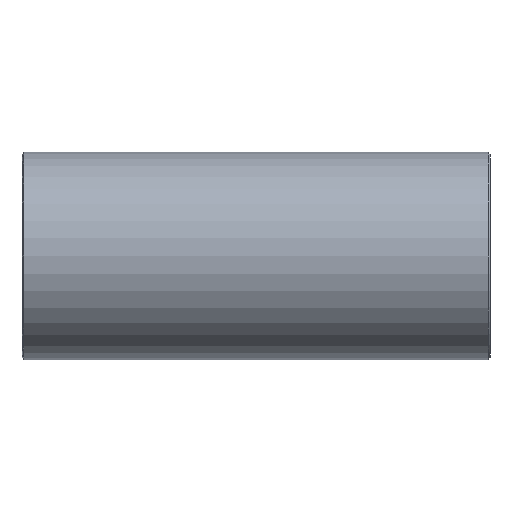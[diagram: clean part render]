
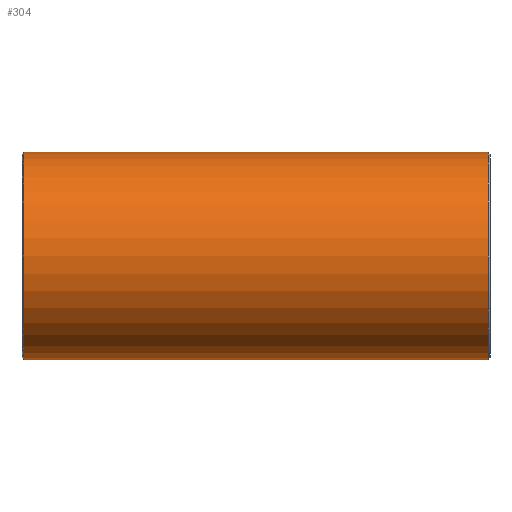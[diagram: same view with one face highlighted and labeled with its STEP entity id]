
A CAD part, front view. The second image highlights one B-rep face of the part: STEP entity #304.
In plain terms, the highlighted cylindrical face has radius 10.9 mm (diameter 21.8 mm), a full revolution.
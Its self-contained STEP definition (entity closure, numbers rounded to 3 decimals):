
#121=CARTESIAN_POINT('',(0.0,0.0,10.9));
#122=VERTEX_POINT('',#121);
#123=CARTESIAN_POINT('',(0.0,0.0,-10.9));
#124=VERTEX_POINT('',#123);
#221=CARTESIAN_POINT('',(-24.4,10.9,0.));
#222=VERTEX_POINT('',#221);
#223=CARTESIAN_POINT('',(-24.4,0.0,0.0));
#224=DIRECTION('',(-1.0,0.0,0.0));
#225=DIRECTION('',(0.0,-1.0,0.0));
#226=AXIS2_PLACEMENT_3D('',#223,#224,#225);
#227=CIRCLE('',#226,10.9);
#228=EDGE_CURVE('',#222,#222,#227,.T.);
#233=CARTESIAN_POINT('',(0.0,0.0,0.0));
#234=DIRECTION('',(1.0,0.0,0.0));
#235=DIRECTION('',(0.0,1.0,0.0));
#236=AXIS2_PLACEMENT_3D('',#233,#234,#235);
#237=CYLINDRICAL_SURFACE('',#236,10.9);
#238=CARTESIAN_POINT('',(24.4,10.9,0.));
#239=VERTEX_POINT('',#238);
#240=CARTESIAN_POINT('',(24.4,0.0,0.0));
#241=DIRECTION('',(1.0,0.0,0.0));
#242=DIRECTION('',(0.0,-1.0,0.0));
#243=AXIS2_PLACEMENT_3D('',#240,#241,#242);
#244=CIRCLE('',#243,10.9);
#245=EDGE_CURVE('',#239,#239,#244,.T.);
#246=ORIENTED_EDGE('',*,*,#245,.F.);
#247=EDGE_LOOP('',(#246));
#248=FACE_OUTER_BOUND('',#247,.T.);
#249=CARTESIAN_POINT('',(11.478,9.,6.148));
#250=VERTEX_POINT('',#249);
#251=CARTESIAN_POINT('',(0.0,0.0,0.0));
#252=DIRECTION('',(-0.617,0.787,0.0));
#253=DIRECTION('',(0.787,0.617,0.0));
#254=AXIS2_PLACEMENT_3D('',#251,#252,#253);
#255=ELLIPSE('',#254,17.664,10.9);
#256=EDGE_CURVE('',#122,#250,#255,.T.);
#257=ORIENTED_EDGE('',*,*,#256,.F.);
#258=CARTESIAN_POINT('',(-11.478,9.,6.148));
#259=VERTEX_POINT('',#258);
#260=CARTESIAN_POINT('',(0.0,0.0,0.0));
#261=DIRECTION('',(0.617,0.787,0.0));
#262=DIRECTION('',(-0.787,0.617,0.0));
#263=AXIS2_PLACEMENT_3D('',#260,#261,#262);
#264=ELLIPSE('',#263,17.664,10.9);
#265=EDGE_CURVE('',#259,#122,#264,.T.);
#266=ORIENTED_EDGE('',*,*,#265,.F.);
#267=CARTESIAN_POINT('',(-11.478,9.,-6.148));
#268=VERTEX_POINT('',#267);
#269=CARTESIAN_POINT('',(0.0,0.0,0.0));
#270=DIRECTION('',(0.617,0.787,0.0));
#271=DIRECTION('',(-0.787,0.617,0.0));
#272=AXIS2_PLACEMENT_3D('',#269,#270,#271);
#273=ELLIPSE('',#272,17.664,10.9);
#274=EDGE_CURVE('',#268,#259,#273,.T.);
#275=ORIENTED_EDGE('',*,*,#274,.F.);
#276=CARTESIAN_POINT('',(0.0,0.0,0.0));
#277=DIRECTION('',(0.617,0.787,0.0));
#278=DIRECTION('',(-0.787,0.617,0.0));
#279=AXIS2_PLACEMENT_3D('',#276,#277,#278);
#280=ELLIPSE('',#279,17.664,10.9);
#281=EDGE_CURVE('',#124,#268,#280,.T.);
#282=ORIENTED_EDGE('',*,*,#281,.F.);
#283=CARTESIAN_POINT('',(11.478,9.,-6.148));
#284=VERTEX_POINT('',#283);
#285=CARTESIAN_POINT('',(0.0,0.0,0.0));
#286=DIRECTION('',(-0.617,0.787,0.0));
#287=DIRECTION('',(0.787,0.617,0.0));
#288=AXIS2_PLACEMENT_3D('',#285,#286,#287);
#289=ELLIPSE('',#288,17.664,10.9);
#290=EDGE_CURVE('',#284,#124,#289,.T.);
#291=ORIENTED_EDGE('',*,*,#290,.F.);
#292=CARTESIAN_POINT('',(0.0,0.0,0.0));
#293=DIRECTION('',(-0.617,0.787,0.0));
#294=DIRECTION('',(0.787,0.617,0.0));
#295=AXIS2_PLACEMENT_3D('',#292,#293,#294);
#296=ELLIPSE('',#295,17.664,10.9);
#297=EDGE_CURVE('',#250,#284,#296,.T.);
#298=ORIENTED_EDGE('',*,*,#297,.F.);
#299=EDGE_LOOP('',(#257,#266,#275,#282,#291,#298));
#300=FACE_BOUND('',#299,.T.);
#301=ORIENTED_EDGE('',*,*,#228,.F.);
#302=EDGE_LOOP('',(#301));
#303=FACE_BOUND('',#302,.T.);
#304=ADVANCED_FACE('',(#248,#300,#303),#237,.T.);
